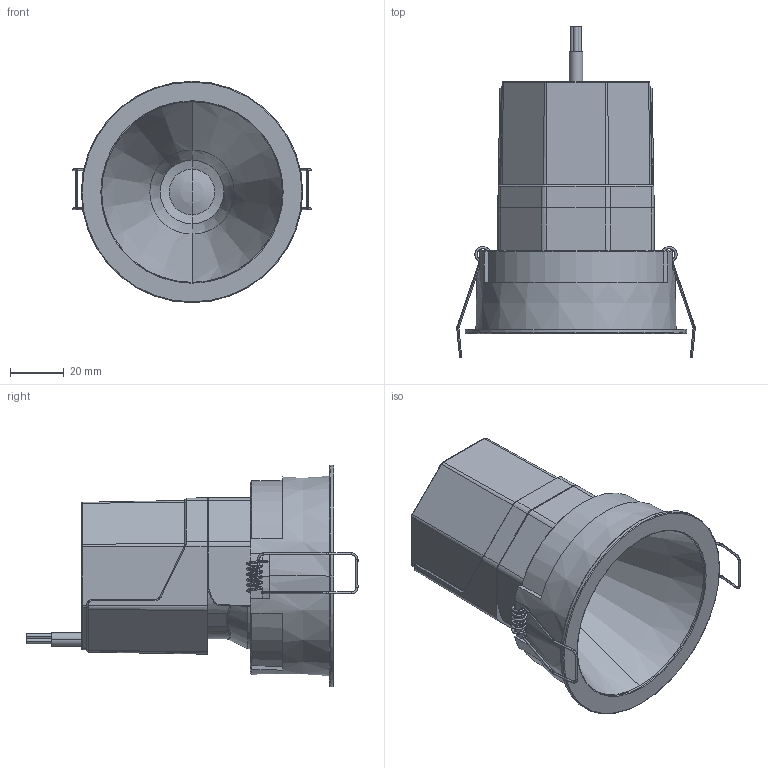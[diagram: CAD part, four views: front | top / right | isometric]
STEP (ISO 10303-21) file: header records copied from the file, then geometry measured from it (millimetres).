
FILE_DESCRIPTION((''),'2;1');
FILE_NAME('KL-SD-D82-12W-WH_ASM','2025-12-25T20:33:49',('Administrator'),(''),'CREO PARAMETRIC BY PTC INC, 2021164','CREO PARAMETRIC BY PTC INC, 2021164','');
FILE_SCHEMA(('CONFIG_CONTROL_DESIGN','SHAPE_APPEARANCE_LAYERS_GROUPS'));
Length unit declared in the file: millimetre
Products named in the file (10): PRT0001_7; PRT0002_4; PRT0003_11; PRT0004_1; PRT0005_1; PRT0006_1; A1_2; PRT0007_1; ASM0001_ASM_23_ASM; KL-SD-D82-12W-WH_ASM
Assembly tree (9 placements, depth 3):
  KL-SD-D82-12W-WH_ASM
    ASM0001_ASM_23_ASM
      PRT0001_7
      PRT0002_4
      PRT0003_11
      PRT0004_1
      PRT0005_1
      PRT0006_1
      A1_2
      PRT0007_1
Bounding box: 88.56 x 123.26 x 82.2 mm (x, y, z)
Volume: 124435.9 mm3; surface area: 87353.9 mm2
Topology: 8 solids, 8 shells, 681 faces, 1702 edges, 1050 vertices
Faces by surface type: cylinder 253, plane 211, torus 110, bspline 54, cone 49, sphere 4
Entity records: 30990 total; most frequent: CARTESIAN_POINT 9308, DIRECTION 3500, ORIENTED_EDGE 3398, PRESENTATION_STYLE_ASSIGNMENT 1721, STYLED_ITEM 1714, CURVE_STYLE 1699, EDGE_CURVE 1699, AXIS2_PLACEMENT_3D 1370
